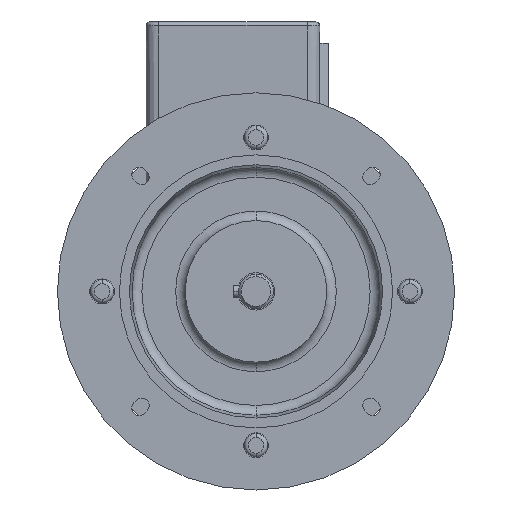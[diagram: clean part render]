
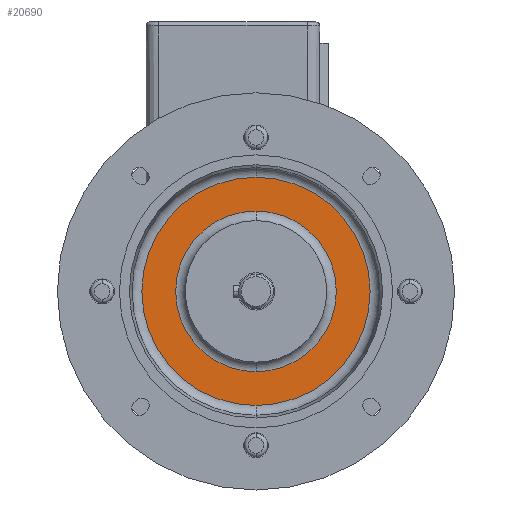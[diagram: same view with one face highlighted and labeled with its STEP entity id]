
A CAD part, left-side view. The second image highlights one B-rep face of the part: STEP entity #20690.
In plain terms, the highlighted planar face has unit normal (-1, 0, 0) as drawn and (0, 0, -1) by its records, which use the part's own axes.
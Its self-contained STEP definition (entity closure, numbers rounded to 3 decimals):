
#20220=CARTESIAN_POINT('',(-1457.334,-509.856,
-24.7));
#20230=DIRECTION('',(0.,0.,-1.));
#20240=DIRECTION('',(0.,-1.,0.));
#20250=AXIS2_PLACEMENT_3D('',#20220,#20230,#20240);
#20260=PLANE('',#20250);
#20270=CARTESIAN_POINT('',(-1457.334,-470.685,
-24.7));
#20280=DIRECTION('',(0.,0.,-1.));
#20290=DIRECTION('',(-1.,0.,0.));
#20300=AXIS2_PLACEMENT_3D('',#20270,#20280,#20290);
#20310=CIRCLE('',#20300,45.968);
#20320=CARTESIAN_POINT('',(-1457.334,-516.654,
-24.7));
#20330=VERTEX_POINT('',#20320);
#20340=CARTESIAN_POINT('',(-1503.303,-470.685,
-24.7));
#20350=VERTEX_POINT('',#20340);
#20360=EDGE_CURVE('',#20330,#20350,#20310,.T.);
#20370=ORIENTED_EDGE('',*,*,#20360,.T.);
#20380=CARTESIAN_POINT('',(-1411.366,-470.685,
-24.7));
#20390=VERTEX_POINT('',#20380);
#20400=EDGE_CURVE('',#20390,#20330,#20310,.T.);
#20410=ORIENTED_EDGE('',*,*,#20400,.T.);
#20420=CARTESIAN_POINT('',(-1457.334,-424.717,
-24.7));
#20430=VERTEX_POINT('',#20420);
#20440=EDGE_CURVE('',#20430,#20390,#20310,.T.);
#20450=ORIENTED_EDGE('',*,*,#20440,.T.);
#20460=EDGE_CURVE('',#20350,#20430,#20310,.T.);
#20470=ORIENTED_EDGE('',*,*,#20460,.T.);
#20480=EDGE_LOOP('',(#20470,#20450,#20410,#20370));
#20490=FACE_OUTER_BOUND('',#20480,.T.);
#20500=CARTESIAN_POINT('',(-1457.334,-470.685,
-24.7));
#20510=DIRECTION('',(0.,0.,-1.));
#20520=DIRECTION('',(-1.,0.,0.));
#20530=AXIS2_PLACEMENT_3D('',#20500,#20510,#20520);
#20540=CIRCLE('',#20530,32.373);
#20550=CARTESIAN_POINT('',(-1457.334,-503.058,
-24.7));
#20560=VERTEX_POINT('',#20550);
#20570=CARTESIAN_POINT('',(-1489.707,-470.685,
-24.7));
#20580=VERTEX_POINT('',#20570);
#20590=EDGE_CURVE('',#20560,#20580,#20540,.T.);
#20600=ORIENTED_EDGE('',*,*,#20590,.F.);
#20610=CARTESIAN_POINT('',(-1424.961,-470.685,
-24.7));
#20620=VERTEX_POINT('',#20610);
#20630=EDGE_CURVE('',#20580,#20620,#20540,.T.);
#20640=ORIENTED_EDGE('',*,*,#20630,.F.);
#20650=EDGE_CURVE('',#20620,#20560,#20540,.T.);
#20660=ORIENTED_EDGE('',*,*,#20650,.F.);
#20670=EDGE_LOOP('',(#20660,#20640,#20600));
#20680=FACE_BOUND('',#20670,.T.);
#20690=ADVANCED_FACE('',(#20490,#20680),#20260,.T.);
